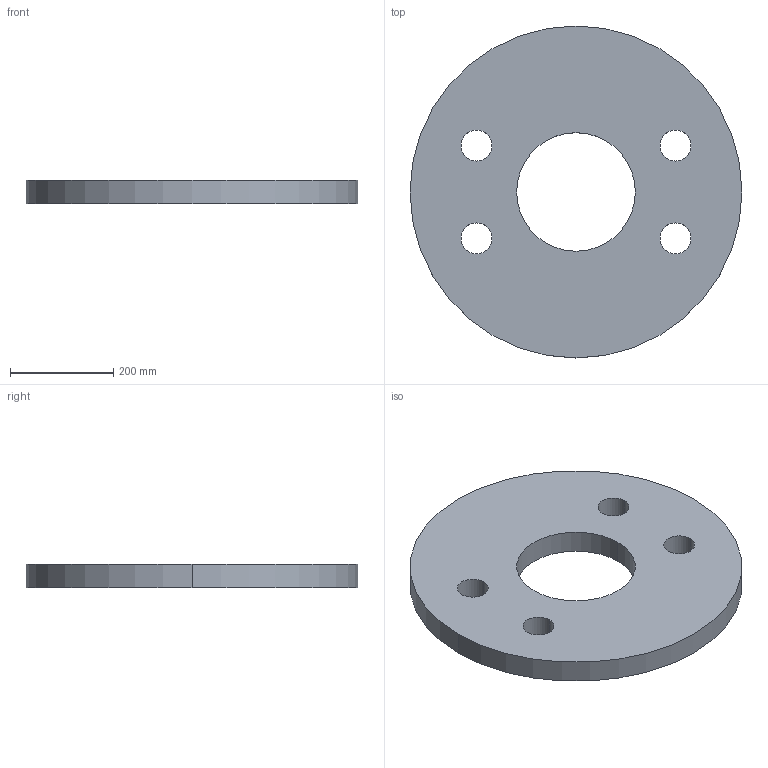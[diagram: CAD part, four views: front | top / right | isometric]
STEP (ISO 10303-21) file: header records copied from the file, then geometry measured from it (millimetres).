
FILE_DESCRIPTION (( 'STEP AP203' ), '1' );
FILE_NAME ('Kreissscheibe M56.STEP', '2018-02-22T05:54:30', ( 'install' ), ( 'Hewlett-Packard Company' ), 'SwSTEP 2.0', 'SolidWorks 2017', '' );
FILE_SCHEMA (( 'CONFIG_CONTROL_DESIGN' ));
Length unit declared in the file: millimetre
Products named in the file (1): Kreissscheibe M56
Bounding box: 644 x 644 x 45 mm (x, y, z)
Volume: 12279401.8 mm3; surface area: 703239.2 mm2
Topology: 1 solids, 1 shells, 14 faces, 36 edges, 24 vertices
Faces by surface type: cylinder 12, plane 2
Entity records: 541 total; most frequent: DIRECTION 90, CARTESIAN_POINT 75, ORIENTED_EDGE 72, AXIS2_PLACEMENT_3D 39, EDGE_CURVE 36, EDGE_LOOP 24, CIRCLE 24, VERTEX_POINT 24
